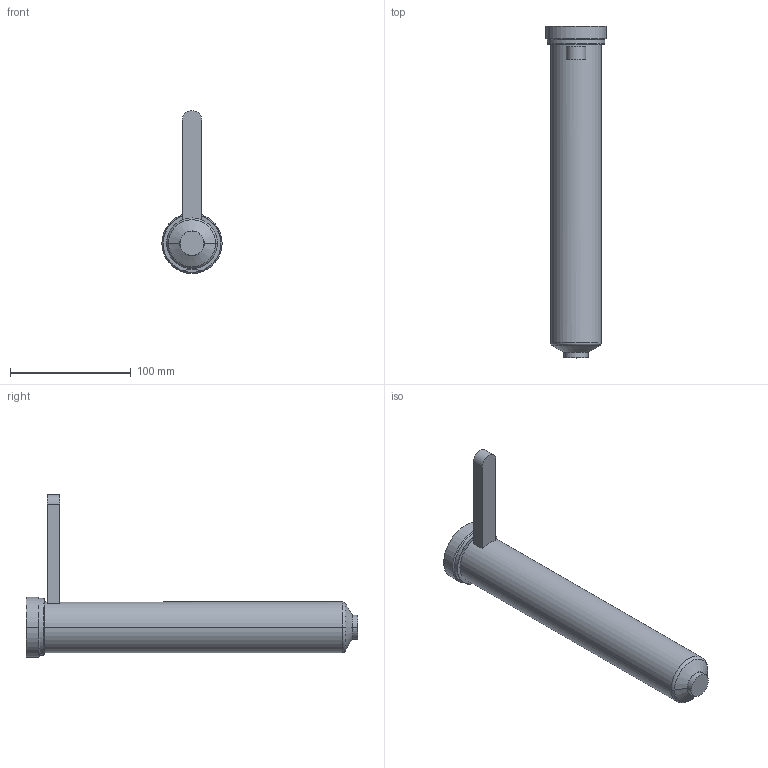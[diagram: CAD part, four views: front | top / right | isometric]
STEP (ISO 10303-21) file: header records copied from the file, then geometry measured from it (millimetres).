
FILE_DESCRIPTION((''),'2;1');
FILE_NAME('EO16_PG-FB_STD_260_COT','2024-02-19T11:42:18',('sundharh'),(''),'CREO PARAMETRIC BY PTC INC, 2023154','CREO PARAMETRIC BY PTC INC, 2023154','');
FILE_SCHEMA(('CONFIG_CONTROL_DESIGN'));
Length unit declared in the file: millimetre
Products named in the file (1): EO16_PG-FB_STD_260_COT
Bounding box: 50 x 275 x 135 mm (x, y, z)
Volume: 394860.6 mm3; surface area: 44057.4 mm2
Topology: 1 solids, 1 shells, 31 faces, 67 edges, 40 vertices
Faces by surface type: cylinder 11, plane 9, torus 7, cone 4
Entity records: 967 total; most frequent: CARTESIAN_POINT 234, DIRECTION 159, ORIENTED_EDGE 134, AXIS2_PLACEMENT_3D 67, EDGE_CURVE 67, VERTEX_POINT 40, CIRCLE 36, EDGE_LOOP 33
